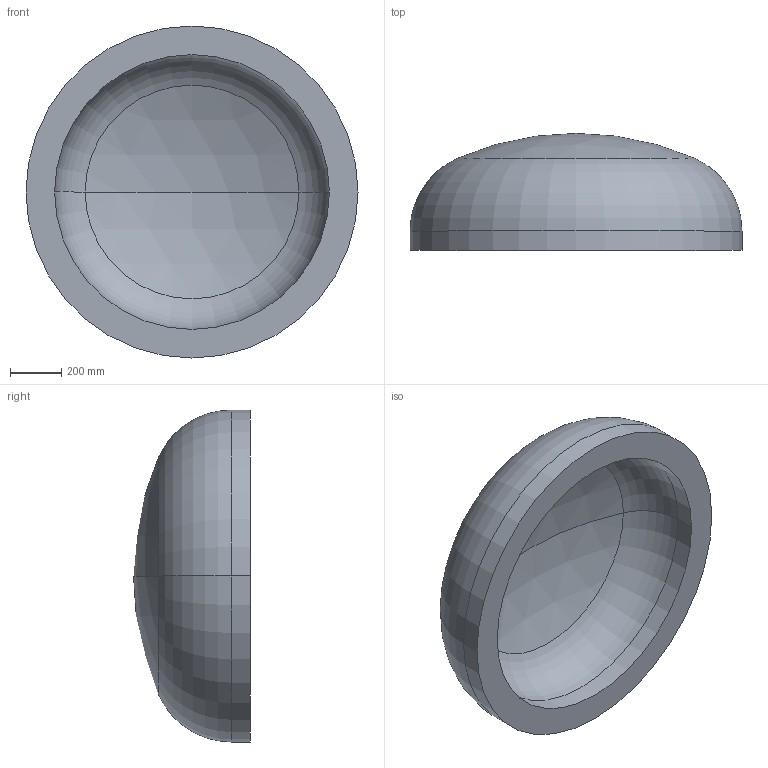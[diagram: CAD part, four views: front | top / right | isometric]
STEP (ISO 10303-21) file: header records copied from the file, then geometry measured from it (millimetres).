
FILE_DESCRIPTION (( 'STEP AP203' ), '1' );
FILE_NAME ('DIN 28013 Korbbogenform_-_Boden DIN 28013 - 1300 x 75 - I - s=112.step', '2016-07-01T10:03:43', ( '' ), ( '' ), 'SwSTEP 2.0', 'SolidWorks 2013', '' );
FILE_SCHEMA (( 'CONFIG_CONTROL_DESIGN' ));
Length unit declared in the file: millimetre
Products named in the file (1): DIN 28013 Korbbogenform_-_Boden DIN 28013 - 1300 x 75 - I - s=112
Bounding box: 1300 x 458 x 1300 mm (x, y, z)
Volume: 216190855.3 mm3; surface area: 4304830.1 mm2
Topology: 1 solids, 1 shells, 13 faces, 24 edges, 14 vertices
Faces by surface type: torus 4, cylinder 4, sphere 4, plane 1
Entity records: 407 total; most frequent: DIRECTION 72, CARTESIAN_POINT 52, ORIENTED_EDGE 48, AXIS2_PLACEMENT_3D 34, EDGE_CURVE 24, CIRCLE 20, VERTEX_POINT 14, EDGE_LOOP 14
